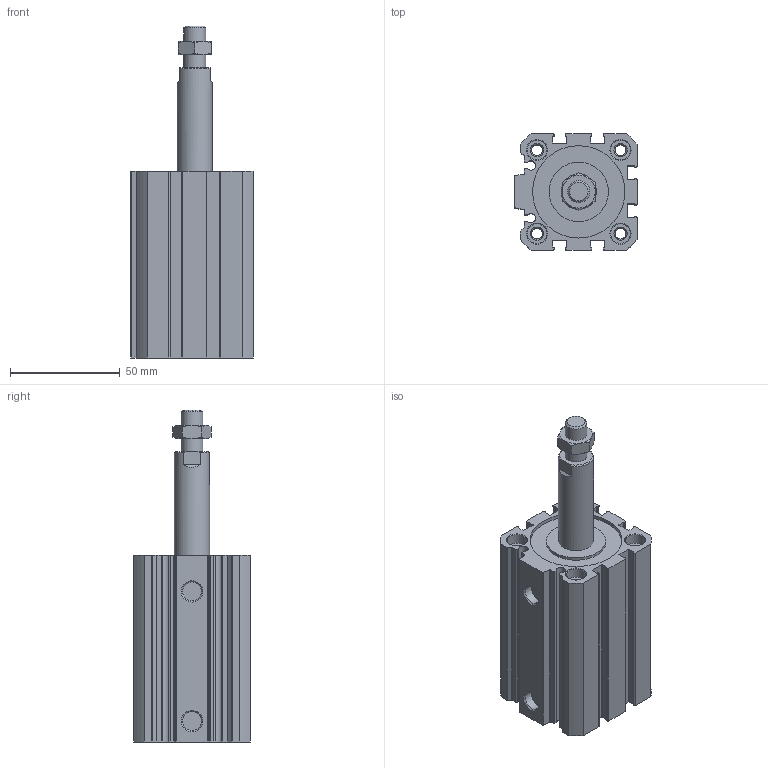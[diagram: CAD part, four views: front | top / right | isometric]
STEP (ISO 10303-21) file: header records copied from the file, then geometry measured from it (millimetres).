
FILE_DESCRIPTION( ( 'STEP AP214' ), '1' );
FILE_NAME( 'C:/Users/EMC02301/Desktop/RU0638 SF外牙 图纸/SF40X40-S-M.stp', '2026-07-24T09:34:13', ( 'License CC BY-ND 4.0' ), ( 'CADENAS' ), ' ', 'PARTsolutions', ' ' );
FILE_SCHEMA( ( 'AUTOMOTIVE_DESIGN { 1 0 10303 214 1 1 1 1 }' ) );
Length unit declared in the file: millimetre
Products named in the file (3): SF40X40-S-M()(040); _SF40X40()(_body) ; _SF40X40-M(rod-0)
Assembly tree (2 placements, depth 2):
  SF40X40-S-M()(040)
    _SF40X40()(_body) 
    _SF40X40-M(rod-0)
Bounding box: 55.5 x 53 x 151 mm (x, y, z)
Volume: 166895.9 mm3; surface area: 54085.7 mm2
Topology: 2 solids, 2 shells, 223 faces, 570 edges, 370 vertices
Faces by surface type: plane 99, cylinder 89, cone 35
Full cylindrical faces by diameter (mm): 4.917 x4, 8.566 x2, 9 x8, 10 x2, 16 x2, 27 x1, 40 x3, 42 x1
Entity records: 8470 total; most frequent: CARTESIAN_POINT 1262, DIRECTION 1162, ORIENTED_EDGE 1044, EDGE_CURVE 522, AXIS2_PLACEMENT_3D 442, VERTEX_POINT 366, EDGE_LOOP 294, LINE 278
